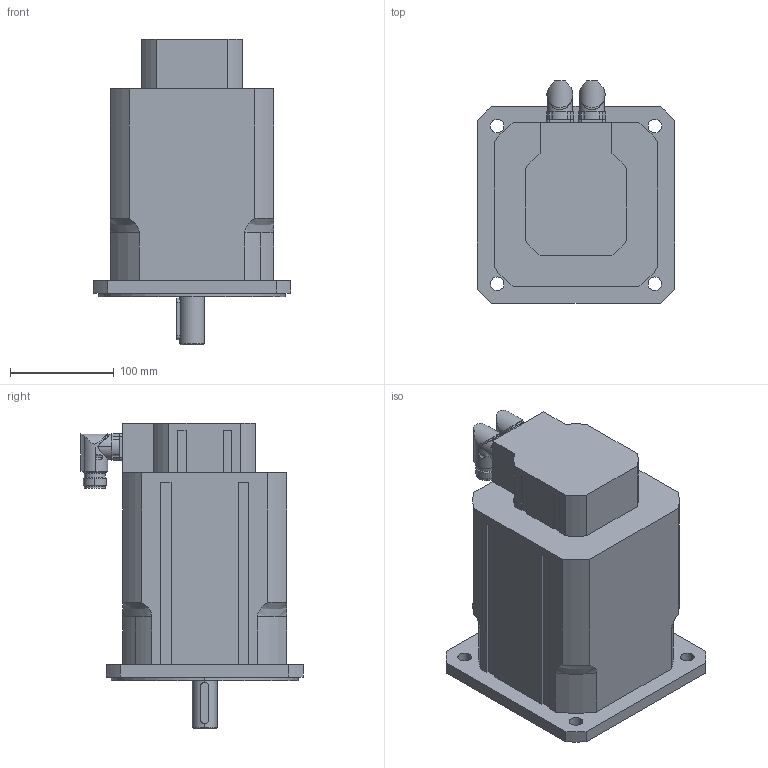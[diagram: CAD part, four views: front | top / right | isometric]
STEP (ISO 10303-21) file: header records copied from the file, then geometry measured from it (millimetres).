
FILE_DESCRIPTION(('STEP AP203'),'2;1');
FILE_NAME('MT6-1900_X.stp','2006-08-28T20:58:14',(''),(''),'2005.2.102','THINKDESIGN','');
FILE_SCHEMA(('CONFIG_CONTROL_DESIGN'));
Length unit declared in the file: millimetre
Bounding box: 190 x 214.5 x 295 mm (x, y, z)
Volume: 5507535.3 mm3; surface area: 240627.9 mm2
Topology: 3 solids, 3 shells, 258 faces, 685 edges, 443 vertices
Faces by surface type: cylinder 112, plane 108, bspline 38
Full cylindrical faces by diameter (mm): 20 x2
Entity records: 9380 total; most frequent: CARTESIAN_POINT 2860, ORIENTED_EDGE 1366, DIRECTION 1343, EDGE_CURVE 683, AXIS2_PLACEMENT_3D 500, VERTEX_POINT 443, VECTOR 343, LINE 343
